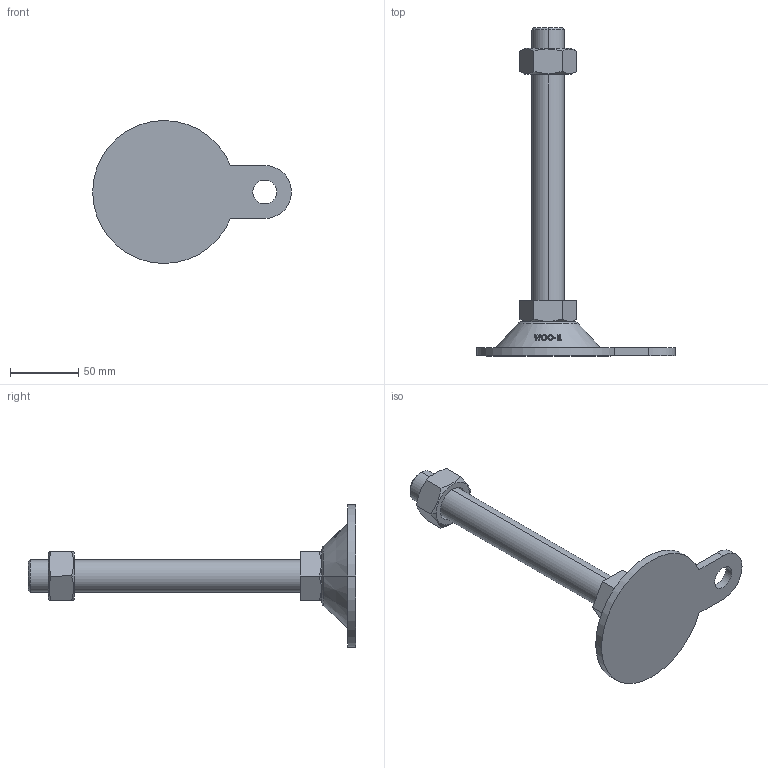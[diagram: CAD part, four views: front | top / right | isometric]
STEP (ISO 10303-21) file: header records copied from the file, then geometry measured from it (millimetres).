
FILE_DESCRIPTION (( 'STEP AP214' ), '1' );
FILE_NAME ('ABL105-M24-200.step', '2021-02-05T04:17:24', ( '' ), ( '' ), 'SwSTEP 2.0', 'SolidWorks 2019', '' );
FILE_SCHEMA (( 'AUTOMOTIVE_DESIGN' ));
Length unit declared in the file: millimetre
Products named in the file (2): ABL105-M24-200
Bounding box: 146 x 241 x 104.98 mm (x, y, z)
Volume: 234586.2 mm3; surface area: 46337.1 mm2
Topology: 2 solids, 2 shells, 128 faces, 325 edges, 212 vertices
Faces by surface type: plane 48, cylinder 38, cone 22, bspline 18, torus 2
Entity records: 5469 total; most frequent: CARTESIAN_POINT 2583, ORIENTED_EDGE 650, DIRECTION 473, EDGE_CURVE 325, VERTEX_POINT 212, AXIS2_PLACEMENT_3D 176, EDGE_LOOP 143, B_SPLINE_CURVE_WITH_KNOTS 140
